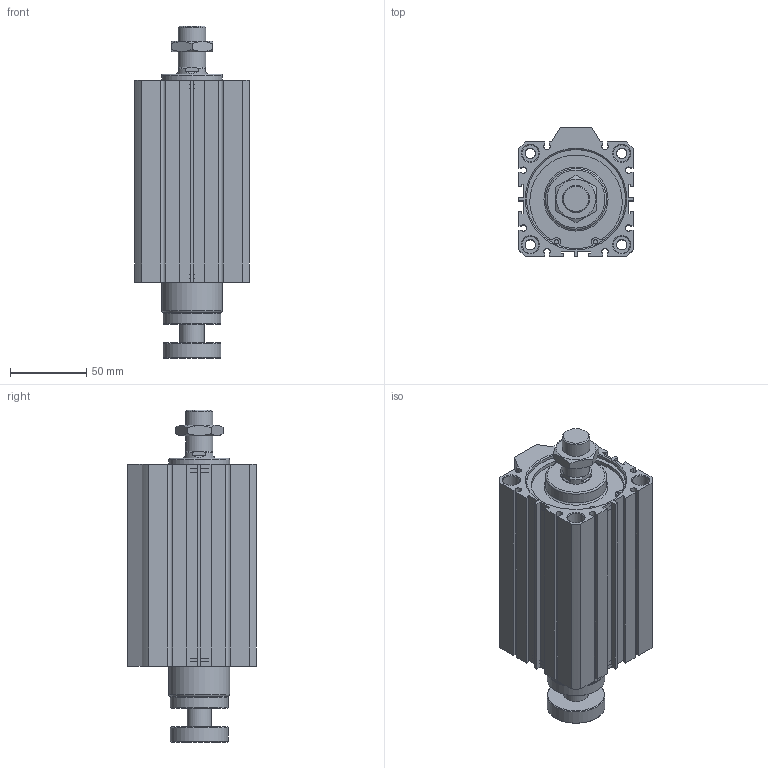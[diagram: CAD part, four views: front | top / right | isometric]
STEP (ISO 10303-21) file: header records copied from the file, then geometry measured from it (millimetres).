
FILE_DESCRIPTION((''),'2;1');
FILE_NAME('I:\3D電子目錄\氣缸\JDAR\JDAR-BS\JDAR63-BS\JDAR63x90-BS.stp','2007-05-05T14:39:44',('662F206'),(''),'Autodesk Inventor 11','Autodesk Inventor 11','');
FILE_SCHEMA(('AUTOMOTIVE_DESIGN { 1 0 10303 214 1 1 1 1 }'));
Length unit declared in the file: millimetre
Products named in the file (3): JDAR63-BS; R 形環 65
Assembly tree (3 placements, depth 2):
  JDAR63-BS
    JDAR63-BS
    R 形環 65  x2
Bounding box: 75 x 84.5 x 217.8 mm (x, y, z)
Volume: 752456.9 mm3; surface area: 101316.4 mm2
Topology: 3 solids, 3 shells, 203 faces, 490 edges, 319 vertices
Faces by surface type: plane 118, cylinder 56, cone 25, bspline 2, torus 2
Full cylindrical faces by diameter (mm): 2.7 x4, 3 x2, 6.8 x4, 11 x8, 16 x1, 18 x2, 20 x1, 38 x2, 40 x2, 65 x4, 68 x2
Entity records: 5389 total; most frequent: CARTESIAN_POINT 1017, DIRECTION 902, ORIENTED_EDGE 798, EDGE_CURVE 399, AXIS2_PLACEMENT_3D 328, VERTEX_POINT 293, EDGE_LOOP 284, VECTOR 246
